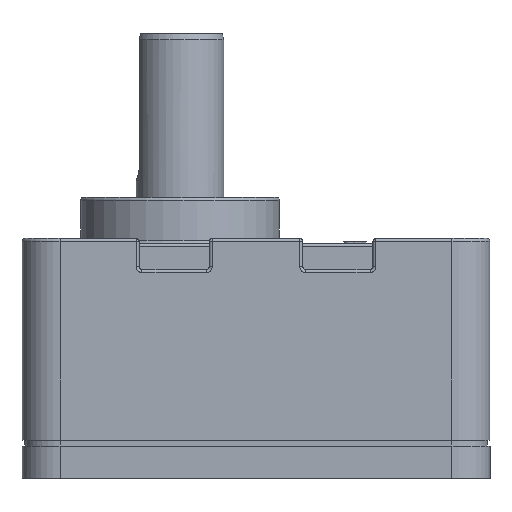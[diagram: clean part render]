
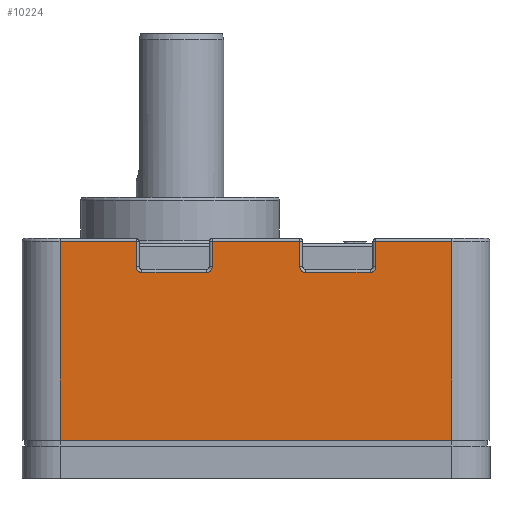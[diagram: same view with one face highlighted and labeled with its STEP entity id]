
A CAD part, left-side view. The second image highlights one B-rep face of the part: STEP entity #10224.
In plain terms, the highlighted planar face has unit normal (-1, 0, 0).
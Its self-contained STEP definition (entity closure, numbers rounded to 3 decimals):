
#9880=CARTESIAN_POINT('',(-80.,6.5,9.947));
#9881=VERTEX_POINT('',#9880);
#9890=CARTESIAN_POINT('',(-80.,19.5,9.947));
#9891=VERTEX_POINT('',#9890);
#9899=CARTESIAN_POINT('',(-80.,19.5,9.947));
#9900=DIRECTION('',(0.0,-1.0,0.0));
#9901=VECTOR('',#9900,13.0);
#9902=LINE('',#9899,#9901);
#9903=EDGE_CURVE('',#9891,#9881,#9902,.T.);
#10094=CARTESIAN_POINT('',(-80.,80.,10.447));
#10095=DIRECTION('',(-1.0,0.0,0.0));
#10096=DIRECTION('',(0.0,0.0,-1.0));
#10097=AXIS2_PLACEMENT_3D('',#10094,#10095,#10096);
#10098=PLANE('',#10097);
#10099=ORIENTED_EDGE('',*,*,#9903,.F.);
#10100=CARTESIAN_POINT('',(-80.,19.5,5.647));
#10101=VERTEX_POINT('',#10100);
#10102=CARTESIAN_POINT('',(-80.,19.5,5.647));
#10103=DIRECTION('',(0.0,0.0,1.0));
#10104=VECTOR('',#10103,4.3);
#10105=LINE('',#10102,#10104);
#10106=EDGE_CURVE('',#10101,#9891,#10105,.T.);
#10107=ORIENTED_EDGE('',*,*,#10106,.F.);
#10108=CARTESIAN_POINT('',(-80.,20.5,4.647));
#10109=VERTEX_POINT('',#10108);
#10110=CARTESIAN_POINT('',(-80.,20.5,5.647));
#10111=DIRECTION('',(-1.0,0.,0.));
#10112=DIRECTION('',(0.,-0.707,-0.707));
#10113=AXIS2_PLACEMENT_3D('',#10110,#10111,#10112);
#10114=CIRCLE('',#10113,1.0);
#10115=EDGE_CURVE('',#10109,#10101,#10114,.T.);
#10116=ORIENTED_EDGE('',*,*,#10115,.F.);
#10117=CARTESIAN_POINT('',(-80.,31.5,4.647));
#10118=VERTEX_POINT('',#10117);
#10119=CARTESIAN_POINT('',(-80.,31.5,4.647));
#10120=DIRECTION('',(0.0,-1.0,0.0));
#10121=VECTOR('',#10120,11.);
#10122=LINE('',#10119,#10121);
#10123=EDGE_CURVE('',#10118,#10109,#10122,.T.);
#10124=ORIENTED_EDGE('',*,*,#10123,.F.);
#10125=CARTESIAN_POINT('',(-80.,32.5,5.647));
#10126=VERTEX_POINT('',#10125);
#10127=CARTESIAN_POINT('',(-80.,31.5,5.647));
#10128=DIRECTION('',(-1.,0.,0.));
#10129=DIRECTION('',(0.,0.707,-0.707));
#10130=AXIS2_PLACEMENT_3D('',#10127,#10128,#10129);
#10131=CIRCLE('',#10130,1.);
#10132=EDGE_CURVE('',#10126,#10118,#10131,.T.);
#10133=ORIENTED_EDGE('',*,*,#10132,.F.);
#10134=CARTESIAN_POINT('',(-80.,32.5,9.947));
#10135=VERTEX_POINT('',#10134);
#10136=CARTESIAN_POINT('',(-80.,32.5,9.947));
#10137=DIRECTION('',(0.0,0.0,-1.0));
#10138=VECTOR('',#10137,4.3);
#10139=LINE('',#10136,#10138);
#10140=EDGE_CURVE('',#10135,#10126,#10139,.T.);
#10141=ORIENTED_EDGE('',*,*,#10140,.F.);
#10142=CARTESIAN_POINT('',(-80.,47.5,9.947));
#10143=VERTEX_POINT('',#10142);
#10144=CARTESIAN_POINT('',(-80.,47.5,9.947));
#10145=DIRECTION('',(0.0,-1.0,0.0));
#10146=VECTOR('',#10145,15.0);
#10147=LINE('',#10144,#10146);
#10148=EDGE_CURVE('',#10143,#10135,#10147,.T.);
#10149=ORIENTED_EDGE('',*,*,#10148,.F.);
#10150=CARTESIAN_POINT('',(-80.,47.5,5.647));
#10151=VERTEX_POINT('',#10150);
#10152=CARTESIAN_POINT('',(-80.,47.5,5.647));
#10153=DIRECTION('',(0.0,0.0,1.0));
#10154=VECTOR('',#10153,4.3);
#10155=LINE('',#10152,#10154);
#10156=EDGE_CURVE('',#10151,#10143,#10155,.T.);
#10157=ORIENTED_EDGE('',*,*,#10156,.F.);
#10158=CARTESIAN_POINT('',(-80.,48.5,4.647));
#10159=VERTEX_POINT('',#10158);
#10160=CARTESIAN_POINT('',(-80.,48.5,5.647));
#10161=DIRECTION('',(-1.,0.,0.));
#10162=DIRECTION('',(0.,-0.707,-0.707));
#10163=AXIS2_PLACEMENT_3D('',#10160,#10161,#10162);
#10164=CIRCLE('',#10163,1.);
#10165=EDGE_CURVE('',#10159,#10151,#10164,.T.);
#10166=ORIENTED_EDGE('',*,*,#10165,.F.);
#10167=CARTESIAN_POINT('',(-80.,59.5,4.647));
#10168=VERTEX_POINT('',#10167);
#10169=CARTESIAN_POINT('',(-80.,59.5,4.647));
#10170=DIRECTION('',(0.0,-1.0,0.0));
#10171=VECTOR('',#10170,11.);
#10172=LINE('',#10169,#10171);
#10173=EDGE_CURVE('',#10168,#10159,#10172,.T.);
#10174=ORIENTED_EDGE('',*,*,#10173,.F.);
#10175=CARTESIAN_POINT('',(-80.,60.5,5.647));
#10176=VERTEX_POINT('',#10175);
#10177=CARTESIAN_POINT('',(-80.,59.5,5.647));
#10178=DIRECTION('',(-1.,0.,0.));
#10179=DIRECTION('',(0.,0.707,-0.707));
#10180=AXIS2_PLACEMENT_3D('',#10177,#10178,#10179);
#10181=CIRCLE('',#10180,1.0);
#10182=EDGE_CURVE('',#10176,#10168,#10181,.T.);
#10183=ORIENTED_EDGE('',*,*,#10182,.F.);
#10184=CARTESIAN_POINT('',(-80.,60.5,9.947));
#10185=VERTEX_POINT('',#10184);
#10186=CARTESIAN_POINT('',(-80.,60.5,9.947));
#10187=DIRECTION('',(0.0,0.0,-1.0));
#10188=VECTOR('',#10187,4.3);
#10189=LINE('',#10186,#10188);
#10190=EDGE_CURVE('',#10185,#10176,#10189,.T.);
#10191=ORIENTED_EDGE('',*,*,#10190,.F.);
#10192=CARTESIAN_POINT('',(-80.,73.5,9.947));
#10193=VERTEX_POINT('',#10192);
#10194=CARTESIAN_POINT('',(-80.,73.5,9.947));
#10195=DIRECTION('',(0.0,-1.0,0.0));
#10196=VECTOR('',#10195,13.);
#10197=LINE('',#10194,#10196);
#10198=EDGE_CURVE('',#10193,#10185,#10197,.T.);
#10199=ORIENTED_EDGE('',*,*,#10198,.F.);
#10200=CARTESIAN_POINT('',(-80.,73.5,-24.053));
#10201=VERTEX_POINT('',#10200);
#10202=CARTESIAN_POINT('',(-80.,73.5,-24.053));
#10203=DIRECTION('',(0.0,0.0,1.0));
#10204=VECTOR('',#10203,34.0);
#10205=LINE('',#10202,#10204);
#10206=EDGE_CURVE('',#10201,#10193,#10205,.T.);
#10207=ORIENTED_EDGE('',*,*,#10206,.F.);
#10208=CARTESIAN_POINT('',(-80.,6.5,-24.053));
#10209=VERTEX_POINT('',#10208);
#10210=CARTESIAN_POINT('',(-80.,73.5,-24.053));
#10211=DIRECTION('',(0.0,-1.0,0.0));
#10212=VECTOR('',#10211,67.);
#10213=LINE('',#10210,#10212);
#10214=EDGE_CURVE('',#10201,#10209,#10213,.T.);
#10215=ORIENTED_EDGE('',*,*,#10214,.T.);
#10216=CARTESIAN_POINT('',(-80.,6.5,9.947));
#10217=DIRECTION('',(0.0,0.0,-1.0));
#10218=VECTOR('',#10217,34.0);
#10219=LINE('',#10216,#10218);
#10220=EDGE_CURVE('',#9881,#10209,#10219,.T.);
#10221=ORIENTED_EDGE('',*,*,#10220,.F.);
#10222=EDGE_LOOP('',(#10099,#10107,#10116,#10124,#10133,#10141,#10149,#10157,#10166,#10174,#10183,#10191,#10199,#10207,#10215,#10221));
#10223=FACE_OUTER_BOUND('',#10222,.T.);
#10224=ADVANCED_FACE('',(#10223),#10098,.T.);
